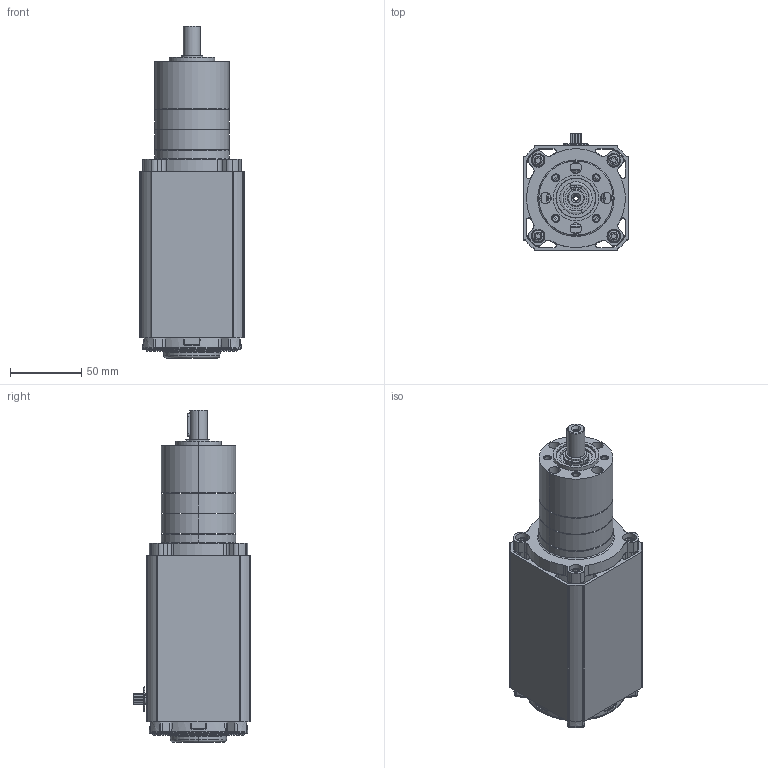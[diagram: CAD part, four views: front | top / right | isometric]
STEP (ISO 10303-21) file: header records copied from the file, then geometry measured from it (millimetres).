
FILE_DESCRIPTION (( 'STEP AP214' ), '1' );
FILE_NAME ('BL6540-PL5200i_2S.STEP', '2013-03-04T14:43:51', ( '' ), ( '' ), 'SwSTEP 2.0', 'SolidWorks 2013', '' );
FILE_SCHEMA (( 'AUTOMOTIVE_DESIGN' ));
Length unit declared in the file: inch
Products named in the file (1): BL6540-PL5200i_2S
Bounding box: 73.36 x 82.37 x 232.51 mm (x, y, z)
Surface area: 109119.3 mm2 (no closed solid volume)
Topology: 0 solids, 55 shells, 907 faces, 3149 edges, 2254 vertices
Faces by surface type: cylinder 390, plane 259, torus 100, cone 93, bspline 59, sphere 6
Entity records: 50862 total; most frequent: CARTESIAN_POINT 12495, DIRECTION 5620, ORIENTED_EDGE 5090, EDGE_CURVE 3144, VERTEX_POINT 2254, AXIS2_PLACEMENT_3D 2131, VECTOR 1358, LINE 1358
